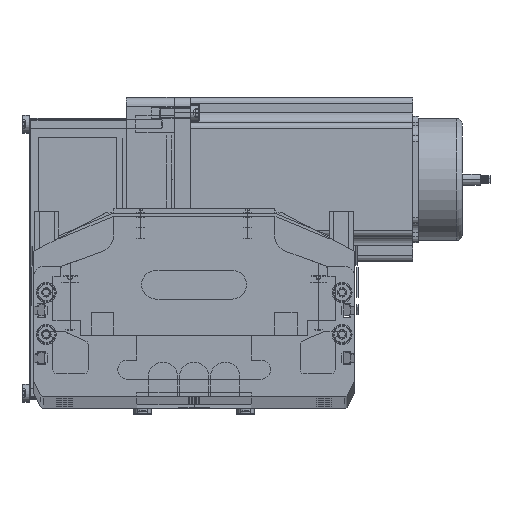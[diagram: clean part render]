
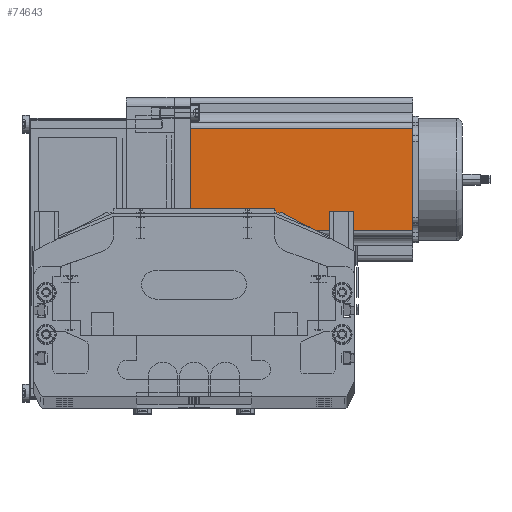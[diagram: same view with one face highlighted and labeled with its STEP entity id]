
A CAD part, top view. The second image highlights one B-rep face of the part: STEP entity #74643.
In plain terms, the highlighted planar face has unit normal (0, 0, 1) as drawn and (0, -1, 0) by its records, which use the part's own axes.
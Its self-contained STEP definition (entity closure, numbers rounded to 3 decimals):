
#70885 = CARTESIAN_POINT ( 'NONE',  ( 16.16, 0., 0. ) ) ;
#70947 = CARTESIAN_POINT ( 'NONE',  ( 69.74, 0., 0. ) ) ;
#70959 = DIRECTION ( 'NONE',  ( 1., 0., 0. ) ) ;
#70960 = VECTOR ( 'NONE', #70959, 1000. ) ;
#70962 = DIRECTION ( 'NONE',  ( 0., 1., 0. ) ) ;
#70963 = CARTESIAN_POINT ( 'NONE',  ( 0., 0., 116.5 ) ) ;
#70964 = DIRECTION ( 'NONE',  ( 0., 0., -1. ) ) ;
#70965 = VECTOR ( 'NONE', #70964, 1000. ) ;
#70969 = CARTESIAN_POINT ( 'NONE',  ( 16.16, 0., 116.5 ) ) ;
#70970 = LINE ( 'NONE', #70969, #70965 ) ;
#70980 = DIRECTION ( 'NONE',  ( 1., 0., 0. ) ) ;
#70981 = VECTOR ( 'NONE', #70980, 1000. ) ;
#70982 = CARTESIAN_POINT ( 'NONE',  ( 0., 0., 0. ) ) ;
#70983 = LINE ( 'NONE', #70982, #70981 ) ;
#70985 = DIRECTION ( 'NONE',  ( 0., 0., 1. ) ) ;
#70986 = VECTOR ( 'NONE', #70985, 1000. ) ;
#70988 = CARTESIAN_POINT ( 'NONE',  ( 69.74, 0., 116.5 ) ) ;
#70990 = CARTESIAN_POINT ( 'NONE',  ( 16.16, 0., 116.5 ) ) ;
#70992 = PLANE ( 'NONE',  #70993 ) ;
#70993 = AXIS2_PLACEMENT_3D ( 'NONE', #70963, #70962, #71000 ) ;
#70994 = FACE_OUTER_BOUND ( 'NONE', #74693, .T. ) ;
#71000 = DIRECTION ( 'NONE',  ( 0., 0., 1. ) ) ;
#71001 = CARTESIAN_POINT ( 'NONE',  ( 69.74, 0., 116.5 ) ) ;
#71002 = LINE ( 'NONE', #71001, #70986 ) ;
#71008 = CARTESIAN_POINT ( 'NONE',  ( 0., 0., 116.5 ) ) ;
#71009 = LINE ( 'NONE', #71008, #70960 ) ;
#74597 = VERTEX_POINT ( 'NONE', #70947 ) ;
#74600 = ORIENTED_EDGE ( 'NONE', *, *, #74646, .T. ) ;
#74624 = VERTEX_POINT ( 'NONE', #70885 ) ;
#74631 = VERTEX_POINT ( 'NONE', #70990 ) ;
#74632 = VERTEX_POINT ( 'NONE', #70988 ) ;
#74636 = EDGE_CURVE ( 'NONE', #74631, #74632, #71009, .T. ) ;
#74642 = EDGE_CURVE ( 'NONE', #74631, #74624, #70970, .T. ) ;
#74643 = ADVANCED_FACE ( 'NONE', ( #70994 ), #70992, .F. ) ;
#74644 = ORIENTED_EDGE ( 'NONE', *, *, #74645, .T. ) ;
#74645 = EDGE_CURVE ( 'NONE', #74597, #74632, #71002, .T. ) ;
#74646 = EDGE_CURVE ( 'NONE', #74624, #74597, #70983, .T. ) ;
#74647 = ORIENTED_EDGE ( 'NONE', *, *, #74636, .F. ) ;
#74672 = ORIENTED_EDGE ( 'NONE', *, *, #74642, .T. ) ;
#74693 = EDGE_LOOP ( 'NONE', ( #74600, #74644, #74647, #74672 ) ) ;
